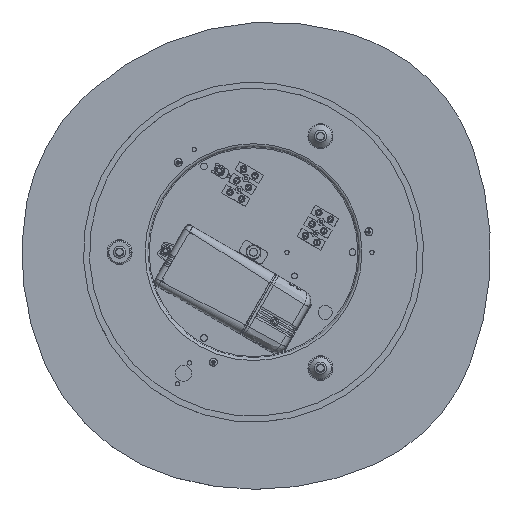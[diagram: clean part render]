
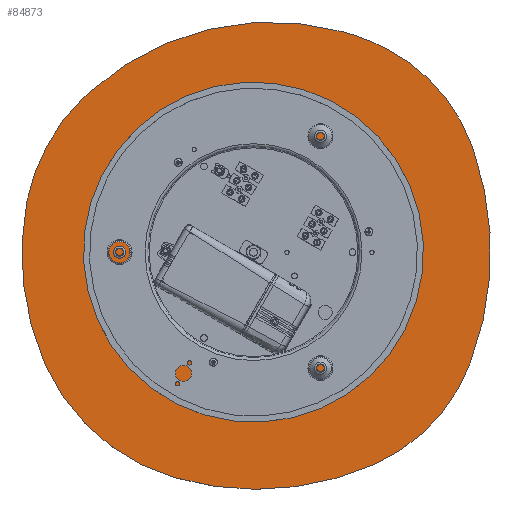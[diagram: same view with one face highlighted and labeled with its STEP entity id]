
A CAD part, top view. The second image highlights one B-rep face of the part: STEP entity #84873.
In plain terms, the highlighted planar face has unit normal (0, 0, 1) as drawn and (0, 1, 0) by its records, which use the part's own axes.
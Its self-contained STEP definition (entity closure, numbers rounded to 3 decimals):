
#7500=FACE_BOUND('',#15199,.T.);
#7868=PLANE('',#90721);
#10346=FACE_OUTER_BOUND('',#15198,.T.);
#15198=EDGE_LOOP('',(#59086,#59087,#59088,#59089,#59090,#59091,#59092,#59093,
#59094,#59095));
#15199=EDGE_LOOP('',(#59096,#59097));
#35343=CIRCLE('',#90714,3.);
#35346=CIRCLE('',#90717,3.);
#35347=CIRCLE('',#90719,202.023);
#35349=CIRCLE('',#90722,214.13);
#35350=CIRCLE('',#90723,145.936);
#35351=CIRCLE('',#90724,204.307);
#35352=CIRCLE('',#90725,152.374);
#35353=CIRCLE('',#90726,218.052);
#35354=CIRCLE('',#90727,134.849);
#35355=CIRCLE('',#90728,234.586);
#35356=CIRCLE('',#90729,132.201);
#35357=CIRCLE('',#90730,170.709);
#38146=VERTEX_POINT('',#121134);
#38147=VERTEX_POINT('',#121135);
#38150=VERTEX_POINT('',#121144);
#38151=VERTEX_POINT('',#121145);
#38154=VERTEX_POINT('',#121153);
#38155=VERTEX_POINT('',#121155);
#38156=VERTEX_POINT('',#121157);
#38157=VERTEX_POINT('',#121159);
#38158=VERTEX_POINT('',#121161);
#38159=VERTEX_POINT('',#121163);
#38160=VERTEX_POINT('',#121165);
#38161=VERTEX_POINT('',#121167);
#46279=EDGE_CURVE('',#38146,#38147,#35343,.T.);
#46283=EDGE_CURVE('',#38147,#38146,#35346,.T.);
#46284=EDGE_CURVE('',#38150,#38151,#35347,.T.);
#46288=EDGE_CURVE('',#38151,#38154,#35349,.T.);
#46289=EDGE_CURVE('',#38154,#38155,#35350,.T.);
#46290=EDGE_CURVE('',#38155,#38156,#35351,.T.);
#46291=EDGE_CURVE('',#38156,#38157,#35352,.T.);
#46292=EDGE_CURVE('',#38157,#38158,#35353,.T.);
#46293=EDGE_CURVE('',#38158,#38159,#35354,.T.);
#46294=EDGE_CURVE('',#38159,#38160,#35355,.T.);
#46295=EDGE_CURVE('',#38160,#38161,#35356,.T.);
#46296=EDGE_CURVE('',#38161,#38150,#35357,.T.);
#59086=ORIENTED_EDGE('',*,*,#46288,.T.);
#59087=ORIENTED_EDGE('',*,*,#46289,.T.);
#59088=ORIENTED_EDGE('',*,*,#46290,.T.);
#59089=ORIENTED_EDGE('',*,*,#46291,.T.);
#59090=ORIENTED_EDGE('',*,*,#46292,.T.);
#59091=ORIENTED_EDGE('',*,*,#46293,.T.);
#59092=ORIENTED_EDGE('',*,*,#46294,.T.);
#59093=ORIENTED_EDGE('',*,*,#46295,.T.);
#59094=ORIENTED_EDGE('',*,*,#46296,.T.);
#59095=ORIENTED_EDGE('',*,*,#46284,.T.);
#59096=ORIENTED_EDGE('',*,*,#46279,.F.);
#59097=ORIENTED_EDGE('',*,*,#46283,.F.);
#84873=ADVANCED_FACE('',(#10346,#7500),#7868,.T.);
#90714=AXIS2_PLACEMENT_3D('',#121136,#98672,#98673);
#90717=AXIS2_PLACEMENT_3D('',#121142,#98679,#98680);
#90719=AXIS2_PLACEMENT_3D('',#121146,#98683,#98684);
#90721=AXIS2_PLACEMENT_3D('',#121152,#98689,#98690);
#90722=AXIS2_PLACEMENT_3D('',#121154,#98691,#98692);
#90723=AXIS2_PLACEMENT_3D('',#121156,#98693,#98694);
#90724=AXIS2_PLACEMENT_3D('',#121158,#98695,#98696);
#90725=AXIS2_PLACEMENT_3D('',#121160,#98697,#98698);
#90726=AXIS2_PLACEMENT_3D('',#121162,#98699,#98700);
#90727=AXIS2_PLACEMENT_3D('',#121164,#98701,#98702);
#90728=AXIS2_PLACEMENT_3D('',#121166,#98703,#98704);
#90729=AXIS2_PLACEMENT_3D('',#121168,#98705,#98706);
#90730=AXIS2_PLACEMENT_3D('',#121169,#98707,#98708);
#98672=DIRECTION('center_axis',(0.,1.,0.));
#98673=DIRECTION('ref_axis',(0.,0.,1.));
#98679=DIRECTION('center_axis',(0.,1.,0.));
#98680=DIRECTION('ref_axis',(0.,0.,1.));
#98683=DIRECTION('center_axis',(0.,1.,0.));
#98684=DIRECTION('ref_axis',(0.,0.,1.));
#98689=DIRECTION('center_axis',(0.,1.,0.));
#98690=DIRECTION('ref_axis',(0.,0.,1.));
#98691=DIRECTION('center_axis',(0.,1.,0.));
#98692=DIRECTION('ref_axis',(0.,0.,1.));
#98693=DIRECTION('center_axis',(0.,1.,0.));
#98694=DIRECTION('ref_axis',(0.,0.,1.));
#98695=DIRECTION('center_axis',(0.,1.,0.));
#98696=DIRECTION('ref_axis',(0.,0.,1.));
#98697=DIRECTION('center_axis',(0.,1.,0.));
#98698=DIRECTION('ref_axis',(0.,0.,1.));
#98699=DIRECTION('center_axis',(0.,1.,0.));
#98700=DIRECTION('ref_axis',(0.,0.,1.));
#98701=DIRECTION('center_axis',(0.,1.,0.));
#98702=DIRECTION('ref_axis',(0.,0.,1.));
#98703=DIRECTION('center_axis',(0.,1.,0.));
#98704=DIRECTION('ref_axis',(0.,0.,1.));
#98705=DIRECTION('center_axis',(0.,1.,0.));
#98706=DIRECTION('ref_axis',(0.,0.,1.));
#98707=DIRECTION('center_axis',(0.,1.,0.));
#98708=DIRECTION('ref_axis',(0.,0.,1.));
#121134=CARTESIAN_POINT('',(0.,4.,-3.));
#121135=CARTESIAN_POINT('',(0.,4.,3.));
#121136=CARTESIAN_POINT('Origin',(0.,4.,0.));
#121142=CARTESIAN_POINT('Origin',(0.,4.,0.));
#121144=CARTESIAN_POINT('',(66.907,4.,-164.688));
#121145=CARTESIAN_POINT('',(-122.419,4.,-119.601));
#121146=CARTESIAN_POINT('Origin',(13.259,4.,30.082));
#121152=CARTESIAN_POINT('Origin',(-2.33,4.,14.557));
#121153=CARTESIAN_POINT('',(-127.568,4.,-114.777));
#121154=CARTESIAN_POINT('Origin',(21.389,4.,39.052));
#121155=CARTESIAN_POINT('',(-169.366,4.,-37.46));
#121156=CARTESIAN_POINT('Origin',(-26.049,4.,-9.938));
#121157=CARTESIAN_POINT('',(-155.618,4.,83.607));
#121158=CARTESIAN_POINT('Origin',(31.274,4.,1.07));
#121159=CARTESIAN_POINT('',(-58.899,4.,168.328));
#121160=CARTESIAN_POINT('Origin',(-16.231,4.,22.05));
#121161=CARTESIAN_POINT('',(90.383,4.,158.407));
#121162=CARTESIAN_POINT('Origin',(2.16,4.,-41.001));
#121163=CARTESIAN_POINT('',(161.996,4.,82.677));
#121164=CARTESIAN_POINT('Origin',(35.823,4.,35.089));
#121165=CARTESIAN_POINT('',(163.48,4.,-78.847));
#121166=CARTESIAN_POINT('Origin',(-57.497,4.,-0.109));
#121167=CARTESIAN_POINT('',(98.596,4.,-152.454));
#121168=CARTESIAN_POINT('Origin',(38.949,4.,-34.474));
#121169=CARTESIAN_POINT('Origin',(21.574,4.,-0.108));
